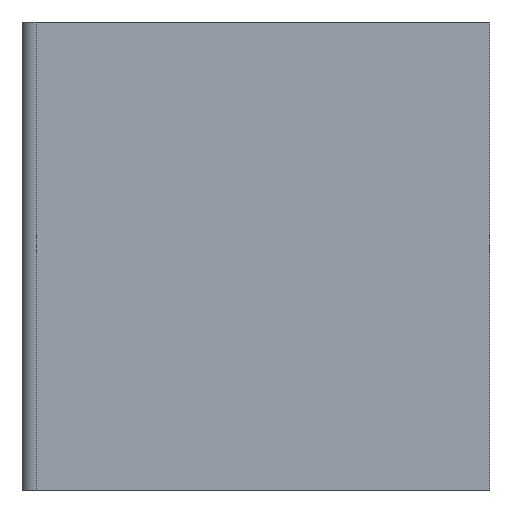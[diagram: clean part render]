
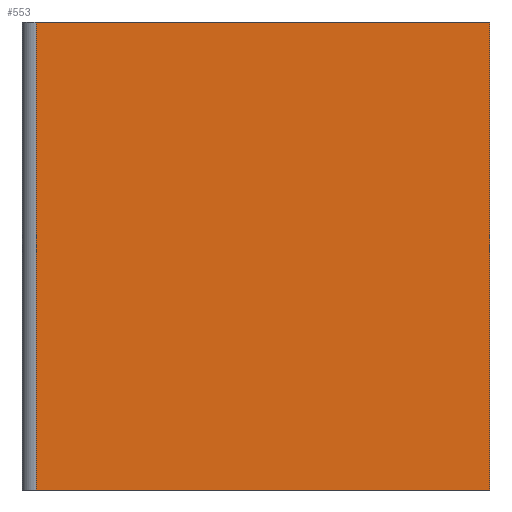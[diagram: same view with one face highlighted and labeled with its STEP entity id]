
A CAD part, left-side view. The second image highlights one B-rep face of the part: STEP entity #553.
In plain terms, the highlighted planar face has unit normal (-1, 0, 0).
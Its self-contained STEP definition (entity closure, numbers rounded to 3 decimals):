
#236 = ORIENTED_EDGE ( 'NONE', *, *, #1169, .F. ) ;
#290 = VERTEX_POINT ( 'NONE', #2331 ) ;
#315 = EDGE_CURVE ( 'NONE', #290, #408, #2400, .T. ) ;
#360 = ORIENTED_EDGE ( 'NONE', *, *, #315, .F. ) ;
#408 = VERTEX_POINT ( 'NONE', #1643 ) ;
#426 = EDGE_CURVE ( 'NONE', #2746, #408, #1847, .T. ) ;
#467 = ORIENTED_EDGE ( 'NONE', *, *, #426, .T. ) ;
#526 = EDGE_LOOP ( 'NONE', ( #467, #360, #236, #665 ) ) ;
#553 = ADVANCED_FACE ( 'NONE', ( #1065 ), #1066, .F. ) ;
#665 = ORIENTED_EDGE ( 'NONE', *, *, #1888, .T. ) ;
#1065 = FACE_OUTER_BOUND ( 'NONE', #526, .T. ) ;
#1066 = PLANE ( 'NONE',  #1067 ) ;
#1067 = AXIS2_PLACEMENT_3D ( 'NONE', #1068, #1069, #1070 ) ;
#1068 = CARTESIAN_POINT ( 'NONE',  ( -75., 0., 50. ) ) ;
#1069 = DIRECTION ( 'NONE',  ( 1., 0., 0. ) ) ;
#1070 = DIRECTION ( 'NONE',  ( 0., 0., -1. ) ) ;
#1169 = EDGE_CURVE ( 'NONE', #1677, #290, #1996, .T. ) ;
#1643 = CARTESIAN_POINT ( 'NONE',  ( -75., 0., 0. ) ) ;
#1677 = VERTEX_POINT ( 'NONE', #2192 ) ;
#1847 = LINE ( 'NONE', #1848, #1849 ) ;
#1848 = CARTESIAN_POINT ( 'NONE',  ( -75., 0., 0. ) ) ;
#1849 = VECTOR ( 'NONE', #1850, 1000. ) ;
#1850 = DIRECTION ( 'NONE',  ( 0., -1., 0. ) ) ;
#1888 = EDGE_CURVE ( 'NONE', #1677, #2746, #2257, .T. ) ;
#1996 = LINE ( 'NONE', #1997, #1998 ) ;
#1997 = CARTESIAN_POINT ( 'NONE',  ( -75., 0., 50. ) ) ;
#1998 = VECTOR ( 'NONE', #2002, 1000. ) ;
#2002 = DIRECTION ( 'NONE',  ( 0., -1., 0. ) ) ;
#2192 = CARTESIAN_POINT ( 'NONE',  ( -75., 48.473, 50. ) ) ;
#2257 = LINE ( 'NONE', #2258, #2259 ) ;
#2258 = CARTESIAN_POINT ( 'NONE',  ( -75., 48.473, 50. ) ) ;
#2259 = VECTOR ( 'NONE', #2260, 1000. ) ;
#2260 = DIRECTION ( 'NONE',  ( 0., 0., -1. ) ) ;
#2331 = CARTESIAN_POINT ( 'NONE',  ( -75., 0., 50. ) ) ;
#2400 = LINE ( 'NONE', #2401, #2402 ) ;
#2401 = CARTESIAN_POINT ( 'NONE',  ( -75., 0., 50. ) ) ;
#2402 = VECTOR ( 'NONE', #2403, 1000. ) ;
#2403 = DIRECTION ( 'NONE',  ( 0., 0., -1. ) ) ;
#2638 = CARTESIAN_POINT ( 'NONE',  ( -75., 48.473, 0. ) ) ;
#2746 = VERTEX_POINT ( 'NONE', #2638 ) ;
